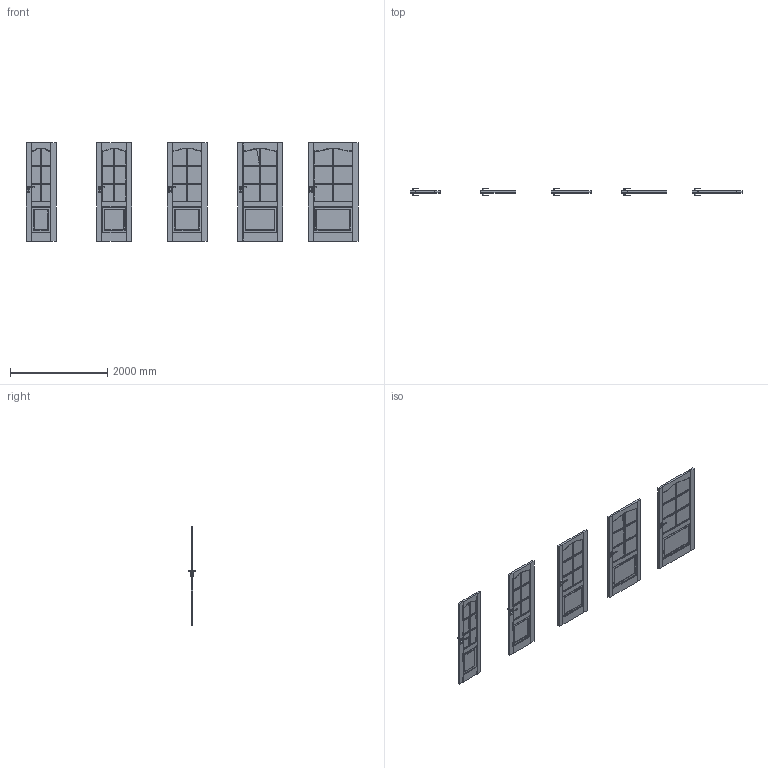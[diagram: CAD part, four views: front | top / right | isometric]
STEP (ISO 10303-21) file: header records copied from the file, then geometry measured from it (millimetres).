
FILE_DESCRIPTION(/* description */ (''),/* implementation_level */ '2;1');
FILE_NAME(/* name */ '050262_A_2-Skrzydło MADRYT model szpros_ polska norma _PN__ bezprzylgowe..stp',/* time_stamp */ '2025-02-06T11:06:37+01:00',/* author */ (''),/* organization */ (''),/* preprocessor_version */ 'ST-DEVELOPER v16',/* originating_system */ 'SIEMENS PLM Software NX 11.0',/* authorisation */ '');
FILE_SCHEMA (('AUTOMOTIVE_DESIGN { 1 0 10303 214 3 1 1 1 }'));
Products named in the file (1): bkni3230AD2496v0
Bounding box: 6818 x 153.13 x 2017 mm (x, y, z)
Volume: 187333111.1 mm3; surface area: 20013843.7 mm2
Topology: 25 solids, 26 shells, 4316 faces, 10860 edges, 6154 vertices
Faces by surface type: plane 2118, cylinder 1446, bspline 612, sphere 140
Full cylindrical faces by diameter (mm): 12 x10
Entity records: 137969 total; most frequent: CARTESIAN_POINT 44180, ORIENTED_EDGE 21420, DIRECTION 16584, EDGE_CURVE 10710, LINE 6846, VECTOR 6846, VERTEX_POINT 6154, AXIS2_PLACEMENT_3D 4869
